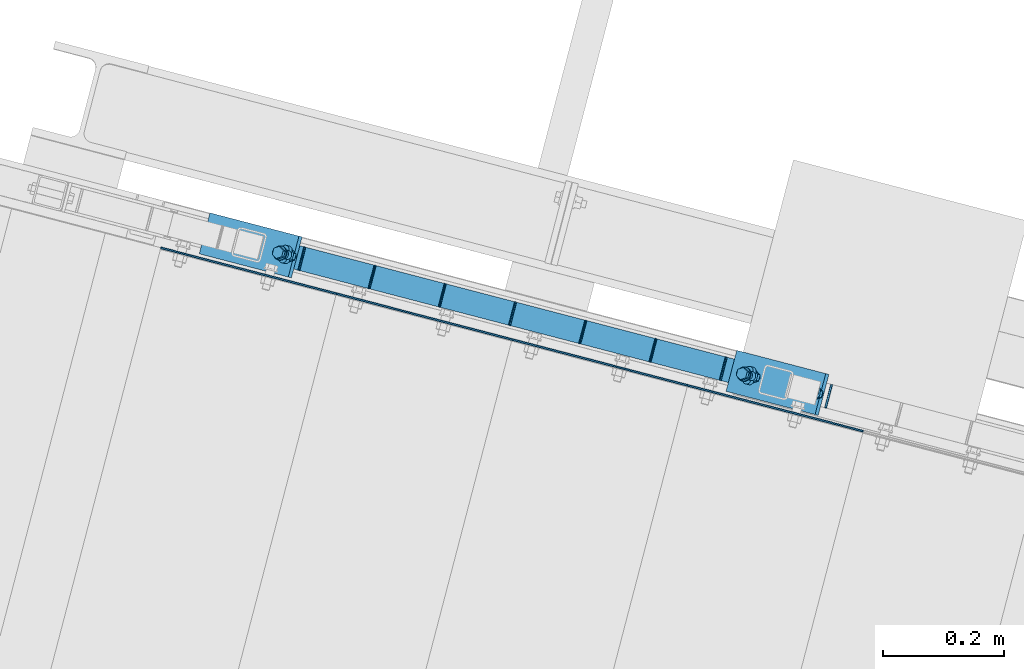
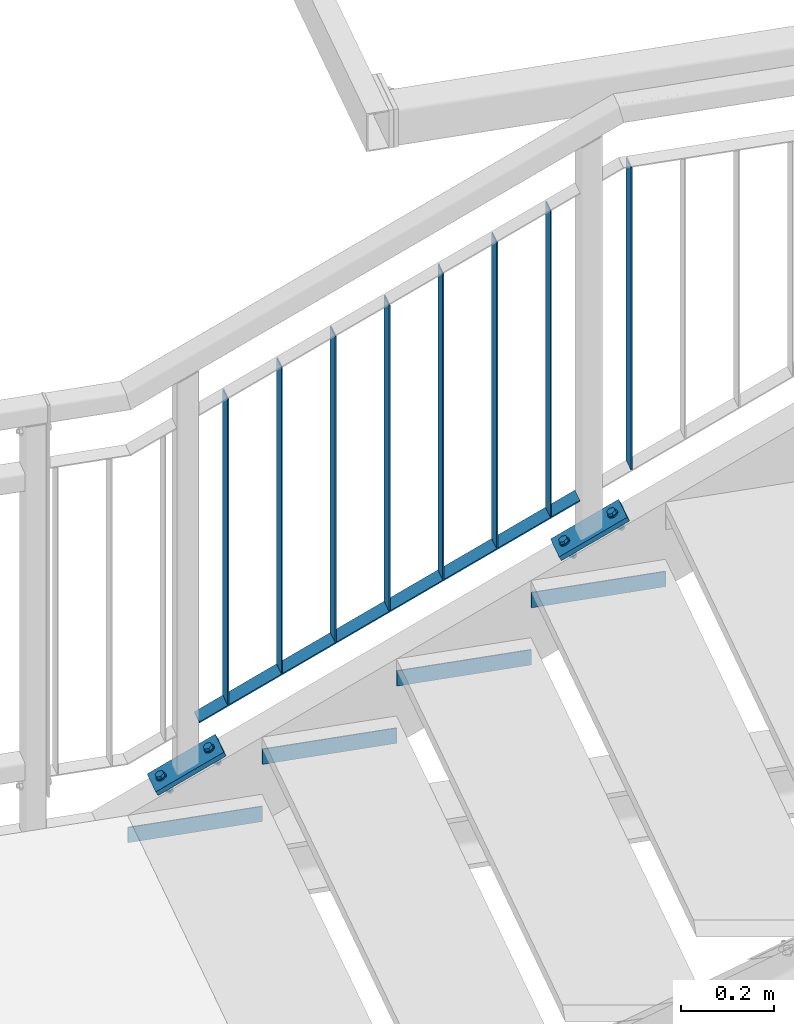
# One storey, part 75 of 169: 15 discrete accessories, 2 mechanical fasteners, 5 elements without a shape of their own.
"""IFC2X3 building model written with IfcOpenShell, lengths in millimetres."""

from ifc_helpers import new_model, si_unit, frame, frame_2d, origin_with_axes, origin_2d_with_axis, place, context, subcontext, project, spatial, polyline, circle_curve, parameter, trimmed, segment, composite_curve, rectangle, circle, outline, extrude, boolean, clip, halfspace, source, transform, mapped, material, type_object, element, aggregate, save


model = new_model("IFC2X3")

# Units and contexts
model_context = context("Model", 3, precision=1e-05, world=origin_with_axes())
body_context = subcontext(model_context, "Body", "Model", "MODEL_VIEW")
ifc_project = project(units=[si_unit("LENGTHUNIT", "METRE", prefix="MILLI"), si_unit("AREAUNIT", "SQUARE_METRE"), si_unit("VOLUMEUNIT", "CUBIC_METRE"), si_unit("MASSUNIT", "GRAM", prefix="KILO"), si_unit("TIMEUNIT", "SECOND"), si_unit("PLANEANGLEUNIT", "RADIAN"), si_unit("SOLIDANGLEUNIT", "STERADIAN"), si_unit("THERMODYNAMICTEMPERATUREUNIT", "DEGREE_CELSIUS"), si_unit("LUMINOUSINTENSITYUNIT", "LUMEN")], contexts=[model_context])

# Site, building, storey
site_placement = place(None, origin_with_axes())
site = spatial("IfcSite", under=ifc_project, at=site_placement, Name="Undefined", CompositionType="ELEMENT")
building_placement = place(site_placement, origin_with_axes())
building = spatial("IfcBuilding", under=site, at=building_placement, Name="Undefined", CompositionType="ELEMENT")
storey_placement = place(building_placement, origin_with_axes())
storey = spatial("IfcBuildingStorey", under=building, at=storey_placement, Name="Undefined", CompositionType="ELEMENT", Elevation=0.0)

# Assembly, discrete accessories
assembly_1_placement = place(storey_placement, origin_with_axes())
assembly_1 = element("IfcElementAssembly", 1, at=assembly_1_placement, inside=storey, Name="Steel Assembly", AssemblyPlace="NOTDEFINED", PredefinedType="RIGID_FRAME")
ifc_material_1 = material(Name="STEEL/S235")
discrete_accessory_type_1 = type_object("IfcDiscreteAccessoryType", Name="BLACHA")
discrete_accessory_1_placement = place(assembly_1_placement, frame((-27426.4804440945, 8733.30178023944, 12459.2877812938), z_axis=(-0.432715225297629, 0.11294923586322, 0.894427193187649), x_axis=(0.252628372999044, 0.967563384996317, 3.42100000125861e-05)))
discrete_accessory_1 = element("IfcDiscreteAccessory", 2, at=discrete_accessory_1_placement, type_object=discrete_accessory_type_1, material=ifc_material_1, Name="BLACHA", ObjectType="BL12*170", context=body_context, shape_type="SweptSolid", body=[
    extrude(outline(polyline([(5.82076609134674e-11, 84.99999999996), (70.0000000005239, 84.9999999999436), (70.0000000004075, -84.9999999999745), (-5.82076609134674e-11, -84.99999999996), (5.82076609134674e-11, 84.99999999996)])), frame((-1.81898942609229e-12, -1.81898940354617e-12, -5.99999999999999), z_axis=(0.0, 0.0, 1.0), x_axis=(1.0, 0.0, 0.0)), (0.0, 0.0, 1.0), 12.0),
])
discrete_accessory_2_placement = place(assembly_1_placement, frame((-26555.6578398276, 8505.9958236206, 12909.2877772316), z_axis=(-0.432715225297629, 0.11294923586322, 0.894427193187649), x_axis=(0.252628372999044, 0.967563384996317, 3.42100000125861e-05)))
discrete_accessory_2 = element("IfcDiscreteAccessory", 3, at=discrete_accessory_2_placement, type_object=discrete_accessory_type_1, material=ifc_material_1, Name="BLACHA", ObjectType="BL12*170", context=body_context, shape_type="SweptSolid", body=[
    extrude(outline(polyline([(5.82076609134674e-11, 84.99999999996), (70.0000000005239, 84.9999999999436), (70.0000000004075, -84.9999999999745), (-5.82076609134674e-11, -84.99999999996), (5.82076609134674e-11, 84.99999999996)])), frame((-1.81898942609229e-12, -1.81898940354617e-12, -5.99999999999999), z_axis=(0.0, 0.0, 1.0), x_axis=(1.0, 0.0, 0.0)), (0.0, 0.0, 1.0), 12.0),
])
discrete_accessory_type_2 = type_object("IfcDiscreteAccessoryType", Name="PORĘCZ")
discrete_accessory_3_placement = place(assembly_1_placement, frame((-27333.1159304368, 8745.25358793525, 13566.9945154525), z_axis=(-0.967563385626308, 0.252628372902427, -1.72000000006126e-07), x_axis=(-3.45692487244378e-05, -0.000132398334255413, -0.999999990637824)))
discrete_accessory_3 = element("IfcDiscreteAccessory", 4, at=discrete_accessory_3_placement, type_object=discrete_accessory_type_2, material=ifc_material_1, Name="PORĘCZ", ObjectType="BL40*3", context=body_context, shape_type="Clipping", body=[
    clip(clip(clip(extrude(outline(polyline([(953.32294910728, 20.0000000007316), (953.322949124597, -19.9999999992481), (149.627900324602, -19.9999999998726), (149.627900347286, 20.0000000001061), (953.32294910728, 20.0000000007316)])), frame((1.81898940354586e-12, -1.77635442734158e-15, -1.50000000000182), z_axis=(0.0, 0.0, 1.0), x_axis=(1.0, 0.0, 0.0)), (0.0, 0.0, 1.0), 3.0), halfspace(frame((149.292490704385, 1000.00000000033, -0.670820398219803), z_axis=(0.894427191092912, -5.07357340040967e-10, -0.447213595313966), x_axis=(-0.447213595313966, -3.31775709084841e-10, -0.894427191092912)), True)), halfspace(frame((953.658358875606, 1000.00000000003, 0.670820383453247), z_axis=(-0.89442719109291, -3.87067713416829e-10, 0.44721359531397), x_axis=(0.44721359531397, 3.3177479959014e-10, 0.89442719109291)), True)), halfspace(frame((22.3606799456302, 999.999999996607, -11.1803398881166), z_axis=(0.894427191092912, -5.07357340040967e-10, -0.447213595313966), x_axis=(-0.447213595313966, -3.31775709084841e-10, -0.894427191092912)), True)),
])
discrete_accessory_4_placement = place(assembly_1_placement, frame((-27217.0062500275, 8714.94612709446, 13626.9945148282), z_axis=(-0.967563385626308, 0.252628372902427, -1.72000000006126e-07), x_axis=(-3.45692487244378e-05, -0.000132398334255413, -0.999999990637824)))
discrete_accessory_4 = element("IfcDiscreteAccessory", 5, at=discrete_accessory_4_placement, type_object=discrete_accessory_type_2, material=ifc_material_1, Name="PORĘCZ", ObjectType="BL40*3", context=body_context, shape_type="Clipping", body=[
    clip(clip(clip(extrude(outline(polyline([(953.32294910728, 20.0000000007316), (953.322949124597, -19.9999999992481), (149.627900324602, -19.9999999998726), (149.627900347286, 20.0000000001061), (953.32294910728, 20.0000000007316)])), frame((1.81898940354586e-12, -1.77635442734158e-15, -1.50000000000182), z_axis=(0.0, 0.0, 1.0), x_axis=(1.0, 0.0, 0.0)), (0.0, 0.0, 1.0), 3.0), halfspace(frame((149.292490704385, 1000.00000000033, -0.670820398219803), z_axis=(0.894427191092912, -5.07357340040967e-10, -0.447213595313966), x_axis=(-0.447213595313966, -3.31775709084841e-10, -0.894427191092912)), True)), halfspace(frame((953.658358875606, 1000.00000000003, 0.670820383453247), z_axis=(-0.89442719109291, -3.87067713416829e-10, 0.44721359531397), x_axis=(0.44721359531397, 3.3177479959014e-10, 0.89442719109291)), True)), halfspace(frame((22.3606799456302, 999.999999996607, -11.1803398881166), z_axis=(0.894427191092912, -5.07357340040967e-10, -0.447213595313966), x_axis=(-0.447213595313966, -3.31775709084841e-10, -0.894427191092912)), True)),
])
discrete_accessory_5_placement = place(assembly_1_placement, frame((-27100.8965696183, 8684.63866625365, 13686.9945142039), z_axis=(-0.967563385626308, 0.252628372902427, -1.72000000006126e-07), x_axis=(-3.45692487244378e-05, -0.000132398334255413, -0.999999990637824)))
discrete_accessory_5 = element("IfcDiscreteAccessory", 6, at=discrete_accessory_5_placement, type_object=discrete_accessory_type_2, material=ifc_material_1, Name="PORĘCZ", ObjectType="BL40*3", context=body_context, shape_type="Clipping", body=[
    clip(clip(clip(extrude(outline(polyline([(953.32294910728, 20.0000000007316), (953.322949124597, -19.9999999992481), (149.627900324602, -19.9999999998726), (149.627900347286, 20.0000000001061), (953.32294910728, 20.0000000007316)])), frame((1.81898940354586e-12, -1.77635442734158e-15, -1.50000000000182), z_axis=(0.0, 0.0, 1.0), x_axis=(1.0, 0.0, 0.0)), (0.0, 0.0, 1.0), 3.0), halfspace(frame((149.292490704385, 1000.00000000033, -0.670820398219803), z_axis=(0.894427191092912, -5.07357340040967e-10, -0.447213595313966), x_axis=(-0.447213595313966, -3.31775709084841e-10, -0.894427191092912)), True)), halfspace(frame((953.658358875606, 1000.00000000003, 0.670820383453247), z_axis=(-0.89442719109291, -3.87067713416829e-10, 0.44721359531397), x_axis=(0.44721359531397, 3.3177479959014e-10, 0.89442719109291)), True)), halfspace(frame((22.3606799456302, 999.999999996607, -11.1803398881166), z_axis=(0.894427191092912, -5.07357340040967e-10, -0.447213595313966), x_axis=(-0.447213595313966, -3.31775709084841e-10, -0.894427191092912)), True)),
])
discrete_accessory_6_placement = place(assembly_1_placement, frame((-26984.7868892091, 8654.33120541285, 13746.9945135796), z_axis=(-0.967563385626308, 0.252628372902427, -1.72000000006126e-07), x_axis=(-3.45692487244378e-05, -0.000132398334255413, -0.999999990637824)))
discrete_accessory_6 = element("IfcDiscreteAccessory", 7, at=discrete_accessory_6_placement, type_object=discrete_accessory_type_2, material=ifc_material_1, Name="PORĘCZ", ObjectType="BL40*3", context=body_context, shape_type="Clipping", body=[
    clip(clip(clip(extrude(outline(polyline([(953.32294910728, 20.0000000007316), (953.322949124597, -19.9999999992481), (149.627900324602, -19.9999999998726), (149.627900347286, 20.0000000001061), (953.32294910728, 20.0000000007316)])), frame((1.81898940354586e-12, -1.77635442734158e-15, -1.50000000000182), z_axis=(0.0, 0.0, 1.0), x_axis=(1.0, 0.0, 0.0)), (0.0, 0.0, 1.0), 3.0), halfspace(frame((149.292490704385, 1000.00000000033, -0.670820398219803), z_axis=(0.894427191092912, -5.07357340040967e-10, -0.447213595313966), x_axis=(-0.447213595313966, -3.31775709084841e-10, -0.894427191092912)), True)), halfspace(frame((953.658358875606, 1000.00000000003, 0.670820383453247), z_axis=(-0.89442719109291, -3.87067713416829e-10, 0.44721359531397), x_axis=(0.44721359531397, 3.3177479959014e-10, 0.89442719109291)), True)), halfspace(frame((22.3606799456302, 999.999999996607, -11.1803398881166), z_axis=(0.894427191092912, -5.07357340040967e-10, -0.447213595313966), x_axis=(-0.447213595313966, -3.31775709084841e-10, -0.894427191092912)), True)),
])
discrete_accessory_7_placement = place(assembly_1_placement, frame((-26868.6772087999, 8624.02374457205, 13806.9945129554), z_axis=(-0.967563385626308, 0.252628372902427, -1.72000000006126e-07), x_axis=(-3.45692487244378e-05, -0.000132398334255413, -0.999999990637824)))
discrete_accessory_7 = element("IfcDiscreteAccessory", 8, at=discrete_accessory_7_placement, type_object=discrete_accessory_type_2, material=ifc_material_1, Name="PORĘCZ", ObjectType="BL40*3", context=body_context, shape_type="Clipping", body=[
    clip(clip(clip(extrude(outline(polyline([(953.32294910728, 20.0000000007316), (953.322949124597, -19.9999999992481), (149.627900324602, -19.9999999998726), (149.627900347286, 20.0000000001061), (953.32294910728, 20.0000000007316)])), frame((1.81898940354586e-12, -1.77635442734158e-15, -1.50000000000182), z_axis=(0.0, 0.0, 1.0), x_axis=(1.0, 0.0, 0.0)), (0.0, 0.0, 1.0), 3.0), halfspace(frame((149.292490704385, 1000.00000000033, -0.670820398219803), z_axis=(0.894427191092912, -5.07357340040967e-10, -0.447213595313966), x_axis=(-0.447213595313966, -3.31775709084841e-10, -0.894427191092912)), True)), halfspace(frame((953.658358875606, 1000.00000000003, 0.670820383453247), z_axis=(-0.89442719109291, -3.87067713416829e-10, 0.44721359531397), x_axis=(0.44721359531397, 3.3177479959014e-10, 0.89442719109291)), True)), halfspace(frame((22.3606799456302, 999.999999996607, -11.1803398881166), z_axis=(0.894427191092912, -5.07357340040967e-10, -0.447213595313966), x_axis=(-0.447213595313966, -3.31775709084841e-10, -0.894427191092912)), True)),
])
discrete_accessory_8_placement = place(assembly_1_placement, frame((-26752.5675283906, 8593.71628373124, 13866.9945123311), z_axis=(-0.967563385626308, 0.252628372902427, -1.72000000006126e-07), x_axis=(-3.45692487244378e-05, -0.000132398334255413, -0.999999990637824)))
discrete_accessory_8 = element("IfcDiscreteAccessory", 9, at=discrete_accessory_8_placement, type_object=discrete_accessory_type_2, material=ifc_material_1, Name="PORĘCZ", ObjectType="BL40*3", context=body_context, shape_type="Clipping", body=[
    clip(clip(clip(extrude(outline(polyline([(953.32294910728, 20.0000000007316), (953.322949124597, -19.9999999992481), (149.627900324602, -19.9999999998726), (149.627900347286, 20.0000000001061), (953.32294910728, 20.0000000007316)])), frame((1.81898940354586e-12, -1.77635442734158e-15, -1.50000000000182), z_axis=(0.0, 0.0, 1.0), x_axis=(1.0, 0.0, 0.0)), (0.0, 0.0, 1.0), 3.0), halfspace(frame((149.292490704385, 1000.00000000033, -0.670820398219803), z_axis=(0.894427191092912, -5.07357340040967e-10, -0.447213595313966), x_axis=(-0.447213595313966, -3.31775709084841e-10, -0.894427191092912)), True)), halfspace(frame((953.658358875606, 1000.00000000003, 0.670820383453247), z_axis=(-0.89442719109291, -3.87067713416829e-10, 0.44721359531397), x_axis=(0.44721359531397, 3.3177479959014e-10, 0.89442719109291)), True)), halfspace(frame((22.3606799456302, 999.999999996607, -11.1803398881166), z_axis=(0.894427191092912, -5.07357340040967e-10, -0.447213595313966), x_axis=(-0.447213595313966, -3.31775709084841e-10, -0.894427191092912)), True)),
])
discrete_accessory_9_placement = place(assembly_1_placement, frame((-26636.4578479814, 8563.40882289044, 13926.9945117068), z_axis=(-0.967563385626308, 0.252628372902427, -1.72000000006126e-07), x_axis=(-3.45692487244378e-05, -0.000132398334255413, -0.999999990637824)))
discrete_accessory_9 = element("IfcDiscreteAccessory", 10, at=discrete_accessory_9_placement, type_object=discrete_accessory_type_2, material=ifc_material_1, Name="PORĘCZ", ObjectType="BL40*3", context=body_context, shape_type="Clipping", body=[
    clip(clip(clip(extrude(outline(polyline([(953.32294910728, 20.0000000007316), (953.322949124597, -19.9999999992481), (149.627900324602, -19.9999999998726), (149.627900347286, 20.0000000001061), (953.32294910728, 20.0000000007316)])), frame((1.81898940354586e-12, -1.77635442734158e-15, -1.50000000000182), z_axis=(0.0, 0.0, 1.0), x_axis=(1.0, 0.0, 0.0)), (0.0, 0.0, 1.0), 3.0), halfspace(frame((149.292490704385, 1000.00000000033, -0.670820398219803), z_axis=(0.894427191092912, -5.07357340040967e-10, -0.447213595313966), x_axis=(-0.447213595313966, -3.31775709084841e-10, -0.894427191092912)), True)), halfspace(frame((953.658358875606, 1000.00000000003, 0.670820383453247), z_axis=(-0.89442719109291, -3.87067713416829e-10, 0.44721359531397), x_axis=(0.44721359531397, 3.3177479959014e-10, 0.89442719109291)), True)), halfspace(frame((22.3606799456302, 999.999999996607, -11.1803398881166), z_axis=(0.894427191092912, -5.07357340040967e-10, -0.447213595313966), x_axis=(-0.447213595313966, -3.31775709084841e-10, -0.894427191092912)), True)),
])
discrete_accessory_10_placement = place(assembly_1_placement, frame((-26462.293326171, 8517.94763131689, 14016.9945113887), z_axis=(-0.967563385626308, 0.252628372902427, -1.72000000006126e-07), x_axis=(-3.45692487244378e-05, -0.000132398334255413, -0.999999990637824)))
discrete_accessory_10 = element("IfcDiscreteAccessory", 11, at=discrete_accessory_10_placement, type_object=discrete_accessory_type_2, material=ifc_material_1, Name="PORĘCZ", ObjectType="BL40*3", context=body_context, shape_type="Clipping", body=[
    clip(clip(extrude(outline(polyline([(953.32294910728, 20.0000000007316), (953.322949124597, -19.9999999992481), (158.500000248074, -19.9999999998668), (158.50000023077, 20.0000000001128), (953.32294910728, 20.0000000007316)])), frame((1.81898940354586e-12, -1.77635442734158e-15, -1.50000000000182), z_axis=(0.0, 0.0, 1.0), x_axis=(1.0, 0.0, 0.0)), (0.0, 0.0, 1.0), 3.0), halfspace(frame((158.4999998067, 1000.00000000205, -1.02481862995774e-08), z_axis=(1.0, 0.0, 0.0), x_axis=(-2.54700353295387e-10, 0.0, -1.0)), True)), halfspace(frame((953.658358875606, 1000.00000000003, 0.670820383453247), z_axis=(-0.89442719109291, -3.87067713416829e-10, 0.44721359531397), x_axis=(0.44721359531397, 3.3177479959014e-10, 0.89442719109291)), True)),
])
discrete_accessory_11_placement = place(assembly_1_placement, frame((-27444.4207214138, 8774.17179752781, 12554.4945246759), z_axis=(-0.252628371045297, -0.967563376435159, 0.000136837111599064), x_axis=(0.8654304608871, -0.225898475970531, 0.447213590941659)))
discrete_accessory_11 = element("IfcDiscreteAccessory", 12, at=discrete_accessory_11_placement, type_object=discrete_accessory_type_2, material=ifc_material_1, Name="PORĘCZ", ObjectType="BL40*3", context=body_context, shape_type="CSG", body=[
    boolean("DIFFERENCE", boolean("DIFFERENCE", boolean("DIFFERENCE", boolean("DIFFERENCE", extrude(rectangle(XDim=3.0, YDim=40.0, at=origin_2d_with_axis()), frame((1024.28206810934, -3.694837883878e-12, -9.23073055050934e-13), z_axis=(-1.0, -3.46944695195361e-18, -1.38777878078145e-17), x_axis=(1.73472347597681e-18, -1.0, 0.0)), (0.0, 0.0, 1.0), 986.43), extrude(rectangle(XDim=51.0, YDim=51.0, at=origin_2d_with_axis()), frame((84.9705831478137, 114.03946683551, -1.13972362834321e-07), z_axis=(-0.44721359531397, -0.89442719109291, 6.42512531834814e-12), x_axis=(0.894427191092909, -0.447213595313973, -3.67723235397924e-10)), (0.0, 0.0, 1.0), 280.0)), extrude(rectangle(XDim=51.0, YDim=51.0, at=origin_2d_with_axis()), frame((1096.79134416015, 125.219806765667, -4.99262399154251e-07), z_axis=(-0.44721359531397, -0.89442719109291, 6.42512531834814e-12), x_axis=(0.894427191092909, -0.447213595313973, -3.67723235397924e-10)), (0.0, 0.0, 1.0), 280.0)), halfspace(frame((1011.8207607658, 11.1803398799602, 999.999999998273), z_axis=(-0.89442719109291, 0.44721359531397, 3.67724048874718e-10), x_axis=(-0.44721359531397, -0.89442719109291, 6.42512531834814e-12)), True)), halfspace(frame((50.3115292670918, -11.1803398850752, 1000.00000000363), z_axis=(0.894427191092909, -0.447213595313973, -3.67723235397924e-10), x_axis=(0.447213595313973, 0.894427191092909, -6.42523900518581e-12)), True)),
])

# Assembly, discrete accessory
assembly_2_placement = place(storey_placement, origin_with_axes())
assembly_2 = element("IfcElementAssembly", 13, at=assembly_2_placement, inside=storey, Name="Steel Assembly", AssemblyPlace="NOTDEFINED", PredefinedType="RIGID_FRAME")
ifc_material_2 = material(Name="STEEL/S235JR")
discrete_accessory_type_3 = type_object("IfcDiscreteAccessoryType", Name="ANGLE")
discrete_accessory_12_placement = place(assembly_2_placement, frame((-26695.4042444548, 8535.75319654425, 12780.0957858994), z_axis=(-0.252562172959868, -0.967580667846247, 0.0), x_axis=(0.967580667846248, -0.252562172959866, 0.0)))
discrete_accessory_12 = element("IfcDiscreteAccessory", 14, at=discrete_accessory_12_placement, type_object=discrete_accessory_type_3, material=ifc_material_2, Name="ANGLE", ObjectType="3*40", context=body_context, shape_type="SweptSolid", body=[
    extrude(rectangle(XDim=40.0, YDim=3.0, at=origin_2d_with_axis()), frame((300.000000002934, 1.81898940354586e-12, -1.81898940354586e-12), z_axis=(-1.0, -3.46944695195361e-18, -1.38777878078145e-17), x_axis=(1.73472347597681e-18, -1.0, 0.0)), (0.0, 0.0, 1.0), 300.0),
])
aggregate(assembly_2, [discrete_accessory_12])

assembly_3_placement = place(storey_placement, origin_with_axes())
assembly_3 = element("IfcElementAssembly", 15, at=assembly_3_placement, inside=storey, Name="Steel Assembly", AssemblyPlace="NOTDEFINED", PredefinedType="RIGID_FRAME")
discrete_accessory_13_placement = place(assembly_3_placement, frame((-26985.678448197, 8611.5218493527, 12630.0957859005), z_axis=(-0.252562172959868, -0.967580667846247, 0.0), x_axis=(0.967580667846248, -0.252562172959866, 0.0)))
discrete_accessory_13 = element("IfcDiscreteAccessory", 16, at=discrete_accessory_13_placement, type_object=discrete_accessory_type_3, material=ifc_material_2, Name="ANGLE", ObjectType="3*40", context=body_context, shape_type="SweptSolid", body=[
    extrude(rectangle(XDim=40.0, YDim=3.0, at=origin_2d_with_axis()), frame((300.000000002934, 1.81898940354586e-12, -1.81898940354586e-12), z_axis=(-1.0, -3.46944695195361e-18, -1.38777878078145e-17), x_axis=(1.73472347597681e-18, -1.0, 0.0)), (0.0, 0.0, 1.0), 300.0),
])
aggregate(assembly_3, [discrete_accessory_13])

assembly_4_placement = place(storey_placement, origin_with_axes())
assembly_4 = element("IfcElementAssembly", 17, at=assembly_4_placement, inside=storey, Name="Steel Assembly", AssemblyPlace="NOTDEFINED", PredefinedType="RIGID_FRAME")
discrete_accessory_14_placement = place(assembly_4_placement, frame((-27275.9526519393, 8687.29050216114, 12480.0957859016), z_axis=(-0.252562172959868, -0.967580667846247, 0.0), x_axis=(0.967580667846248, -0.252562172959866, 0.0)))
discrete_accessory_14 = element("IfcDiscreteAccessory", 18, at=discrete_accessory_14_placement, type_object=discrete_accessory_type_3, material=ifc_material_2, Name="ANGLE", ObjectType="3*40", context=body_context, shape_type="SweptSolid", body=[
    extrude(rectangle(XDim=40.0, YDim=3.0, at=origin_2d_with_axis()), frame((300.000000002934, 1.81898940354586e-12, -1.81898940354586e-12), z_axis=(-1.0, -3.46944695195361e-18, -1.38777878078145e-17), x_axis=(1.73472347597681e-18, -1.0, 0.0)), (0.0, 0.0, 1.0), 300.0),
])
aggregate(assembly_4, [discrete_accessory_14])

assembly_5_placement = place(storey_placement, origin_with_axes())
assembly_5 = element("IfcElementAssembly", 19, at=assembly_5_placement, inside=storey, Name="Steel Assembly", AssemblyPlace="NOTDEFINED", PredefinedType="RIGID_FRAME")
discrete_accessory_15_placement = place(assembly_5_placement, frame((-27566.2268556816, 8763.05915496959, 12330.0957859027), z_axis=(-0.252562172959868, -0.967580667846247, 0.0), x_axis=(0.967580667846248, -0.252562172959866, 0.0)))
discrete_accessory_15 = element("IfcDiscreteAccessory", 20, at=discrete_accessory_15_placement, type_object=discrete_accessory_type_3, material=ifc_material_2, Name="ANGLE", ObjectType="3*40", context=body_context, shape_type="SweptSolid", body=[
    extrude(rectangle(XDim=40.0, YDim=3.0, at=origin_2d_with_axis()), frame((300.000000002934, 1.81898940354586e-12, -1.81898940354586e-12), z_axis=(-1.0, -3.46944695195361e-18, -1.38777878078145e-17), x_axis=(1.73472347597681e-18, -1.0, 0.0)), (0.0, 0.0, 1.0), 300.0),
])
aggregate(assembly_5, [discrete_accessory_15])

# Mechanical fastener
ifc_material_3 = material(Name="Undefined")
discrete_accessory_type_4 = type_object("IfcDiscreteAccessoryType", Name="Bolt assembly")
shared_shape_1 = source(origin_with_axes(), body_context, "Body", "SweptSolid", [
    extrude(outline(composite_curve([segment(polyline([(-7.5, 7.5), (7.5, 7.5)]), True, "CONTINUOUS"), segment(trimmed(circle_curve(frame_2d((7.5, 0.0), x_axis=(0.0, 1.0)), 7.5), [parameter(0.0)], [parameter(3.14159265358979)], False, "PARAMETER"), True, "CONTINUOUS"), segment(polyline([(7.5, -7.5), (-7.5, -7.5)]), True, "CONTINUOUS"), segment(trimmed(circle_curve(frame_2d((-7.5, 0.0), x_axis=(0.0, -1.0)), 7.5), [parameter(0.0)], [parameter(3.14159265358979)], False, "PARAMETER"), True, "DISCONTINUOUS")], self_intersect=False)), frame((0.0, 0.649999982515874, 0.0), z_axis=(0.0, 1.0, 0.0), x_axis=(1.0, 0.0, 0.0)), (0.0, 0.0, 1.0), 11.6),
    extrude(outline(composite_curve([segment(polyline([(7.5, 7.5), (7.5, -7.5)]), True, "CONTINUOUS"), segment(trimmed(circle_curve(frame_2d((0.0, -7.5), x_axis=(1.0, 0.0)), 7.5), [parameter(0.0)], [parameter(3.14159265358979)], False, "PARAMETER"), True, "CONTINUOUS"), segment(polyline([(-7.5, -7.5), (-7.5, 7.5)]), True, "CONTINUOUS"), segment(trimmed(circle_curve(frame_2d((0.0, 7.5), x_axis=(-1.0, 0.0)), 7.5), [parameter(0.0)], [parameter(3.14159265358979)], False, "PARAMETER"), True, "DISCONTINUOUS")], self_intersect=False)), frame((0.0, -12.1500000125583, 0.0), z_axis=(0.0, 1.0, 0.0), x_axis=(1.0, 0.0, 0.0)), (0.0, 0.0, 1.0), 12.0),
    extrude(outline(polyline([(10.39230484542, 0.0), (5.19615242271, 9.00000000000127), (-5.19615242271, 9.00000000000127), (-10.39230484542, 0.0), (-5.19615242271, -9.00000000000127), (5.19615242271, -9.00000000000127), (10.39230484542, 0.0)])), frame((0.0, -22.7500000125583, 0.0), z_axis=(0.0, 1.0, 0.0), x_axis=(1.0, 0.0, 0.0)), (0.0, 0.0, 1.0), 7.5),
    extrude(circle(Radius=6.0, at=origin_2d_with_axis()), frame((0.0, -15.2500000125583, 0.0), z_axis=(0.0, 1.0, 0.0), x_axis=(1.0, 0.0, 0.0)), (0.0, 0.0, 1.0), 50.0),
    extrude(circle(Radius=12.0, at=origin_2d_with_axis()), frame((0.0, -15.2500000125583, 0.0), z_axis=(0.0, 1.0, 0.0), x_axis=(1.0, 0.0, 0.0)), (0.0, 0.0, 1.0), 3.0),
    extrude(circle(Radius=12.0, at=origin_2d_with_axis()), frame((0.0, 12.2499999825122, 0.0), z_axis=(0.0, 1.0, 0.0), x_axis=(1.0, 0.0, 0.0)), (0.0, 0.0, 1.0), 3.0),
    extrude(outline(polyline([(10.96965511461, 0.0), (5.484827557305, 9.50000000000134), (-5.484827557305, 9.50000000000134), (-10.96965511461, 0.0), (-5.484827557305, -9.50000000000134), (5.484827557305, -9.50000000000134), (10.96965511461, 0.0)])), frame((0.0, 15.2499999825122, 0.0), z_axis=(0.0, 1.0, 0.0), x_axis=(1.0, 0.0, 0.0)), (0.0, 0.0, 1.0), 10.0),
])
mechanical_fastener_1_placement = place(assembly_1_placement, frame((-27408.6182714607, 8790.64965096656, 12453.6996639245), z_axis=(0.86541113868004, -0.22597248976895, 0.447213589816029), x_axis=(-0.252628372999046, -0.967563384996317, -3.42099999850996e-05)))
mechanical_fastener_1 = element("IfcMechanicalFastener", 21, at=mechanical_fastener_1_placement, type_object=discrete_accessory_type_4, material=ifc_material_3, Name="Bolt assembly", NominalDiameter=12.0, NominalLength=50.0, context=body_context, shape_type="MappedRepresentation", body=[
    mapped(shared_shape_1, transform((24.9999999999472, 0.0, -60.0000000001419))),
    mapped(shared_shape_1, transform((24.9999999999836, -3.54702933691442e-11, 60.0000000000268))),
])

shared_shape_2 = source(origin_with_axes(), body_context, "Body", "SweptSolid", [
    extrude(outline(composite_curve([segment(polyline([(-7.5, 7.5), (7.5, 7.5)]), True, "CONTINUOUS"), segment(trimmed(circle_curve(frame_2d((7.5, 0.0), x_axis=(0.0, 1.0)), 7.5), [parameter(0.0)], [parameter(3.14159265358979)], False, "PARAMETER"), True, "CONTINUOUS"), segment(polyline([(7.5, -7.5), (-7.5, -7.5)]), True, "CONTINUOUS"), segment(trimmed(circle_curve(frame_2d((-7.5, 0.0), x_axis=(0.0, -1.0)), 7.5), [parameter(0.0)], [parameter(3.14159265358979)], False, "PARAMETER"), True, "DISCONTINUOUS")], self_intersect=False)), frame((0.0, 0.649999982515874, 0.0), z_axis=(0.0, 1.0, 0.0), x_axis=(1.0, 0.0, 0.0)), (0.0, 0.0, 1.0), 11.6),
    extrude(outline(composite_curve([segment(polyline([(7.5, 7.5), (7.5, -7.5)]), True, "CONTINUOUS"), segment(trimmed(circle_curve(frame_2d((0.0, -7.5), x_axis=(1.0, 0.0)), 7.5), [parameter(0.0)], [parameter(3.14159265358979)], False, "PARAMETER"), True, "CONTINUOUS"), segment(polyline([(-7.5, -7.5), (-7.5, 7.5)]), True, "CONTINUOUS"), segment(trimmed(circle_curve(frame_2d((0.0, 7.5), x_axis=(-1.0, 0.0)), 7.5), [parameter(0.0)], [parameter(3.14159265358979)], False, "PARAMETER"), True, "DISCONTINUOUS")], self_intersect=False)), frame((0.0, -12.1500000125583, 0.0), z_axis=(0.0, 1.0, 0.0), x_axis=(1.0, 0.0, 0.0)), (0.0, 0.0, 1.0), 12.0),
    extrude(outline(polyline([(10.39230484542, 0.0), (5.19615242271, 9.00000000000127), (-5.19615242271, 9.00000000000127), (-10.39230484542, 0.0), (-5.19615242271, -9.00000000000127), (5.19615242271, -9.00000000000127), (10.39230484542, 0.0)])), frame((0.0, -22.7500000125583, 0.0), z_axis=(0.0, 1.0, 0.0), x_axis=(1.0, 0.0, 0.0)), (0.0, 0.0, 1.0), 7.5),
    extrude(circle(Radius=6.0, at=origin_2d_with_axis()), frame((0.0, -15.2500000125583, 0.0), z_axis=(0.0, 1.0, 0.0), x_axis=(1.0, 0.0, 0.0)), (0.0, 0.0, 1.0), 50.0),
    extrude(circle(Radius=12.0, at=origin_2d_with_axis()), frame((0.0, -15.2500000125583, 0.0), z_axis=(0.0, 1.0, 0.0), x_axis=(1.0, 0.0, 0.0)), (0.0, 0.0, 1.0), 3.0),
    extrude(circle(Radius=12.0, at=origin_2d_with_axis()), frame((0.0, 12.2499999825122, 0.0), z_axis=(0.0, 1.0, 0.0), x_axis=(1.0, 0.0, 0.0)), (0.0, 0.0, 1.0), 3.0),
    extrude(outline(polyline([(10.96965511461, 0.0), (5.484827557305, 9.50000000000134), (-5.484827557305, 9.50000000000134), (-10.96965511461, 0.0), (-5.484827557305, -9.50000000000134), (5.484827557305, -9.50000000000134), (10.96965511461, 0.0)])), frame((0.0, 15.2499999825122, 0.0), z_axis=(0.0, 1.0, 0.0), x_axis=(1.0, 0.0, 0.0)), (0.0, 0.0, 1.0), 10.0),
])
mechanical_fastener_2_placement = place(assembly_1_placement, frame((-26537.7956671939, 8563.34369434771, 12903.6996598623), z_axis=(0.86541113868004, -0.22597248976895, 0.447213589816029), x_axis=(-0.252628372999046, -0.967563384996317, -3.42099999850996e-05)))
mechanical_fastener_2 = element("IfcMechanicalFastener", 22, at=mechanical_fastener_2_placement, type_object=discrete_accessory_type_4, material=ifc_material_3, Name="Bolt assembly", NominalDiameter=12.0, NominalLength=50.0, context=body_context, shape_type="MappedRepresentation", body=[
    mapped(shared_shape_2, transform((24.9999999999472, 0.0, -60.0000000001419))),
    mapped(shared_shape_2, transform((24.9999999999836, -3.54702933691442e-11, 60.0000000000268))),
])

aggregate(assembly_1, [discrete_accessory_3, discrete_accessory_4, discrete_accessory_5, discrete_accessory_6, discrete_accessory_7, discrete_accessory_8, discrete_accessory_9, discrete_accessory_10, discrete_accessory_11, mechanical_fastener_1, discrete_accessory_1, mechanical_fastener_2, discrete_accessory_2])

save(model, "model.ifc")
